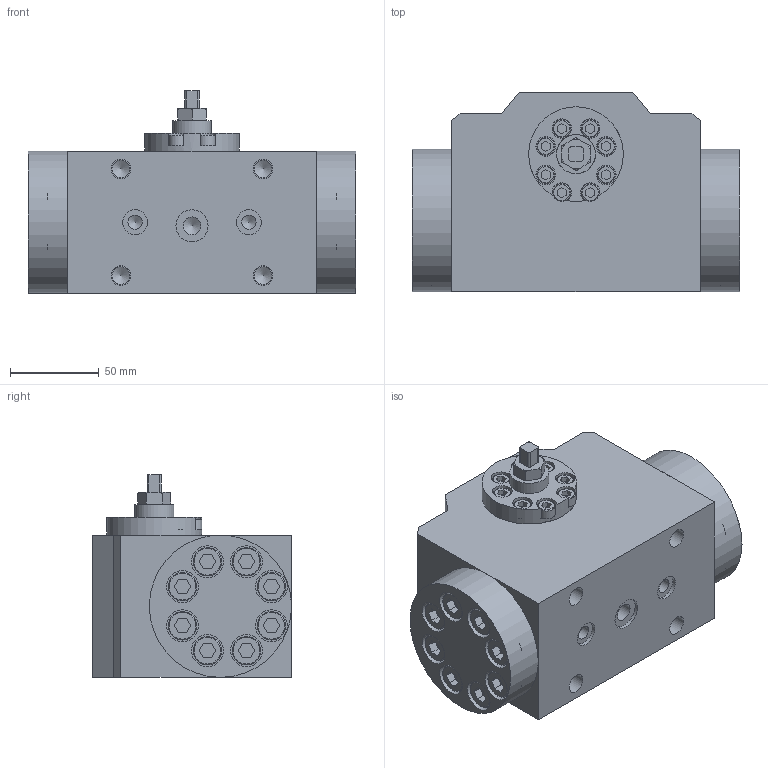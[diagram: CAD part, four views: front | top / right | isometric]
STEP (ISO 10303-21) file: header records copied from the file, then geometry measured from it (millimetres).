
FILE_DESCRIPTION(/* description */ (''),/* implementation_level */ '2;1');
FILE_NAME(/* name */ '7-1.prt.stp',/* time_stamp */ '2023-05-03T13:20:11+08:00',/* author */ (''),/* organization */ (''),/* preprocessor_version */ 'ST-DEVELOPER v16.7',/* originating_system */ 'SIEMENS PLM Software NX 12.0',/* authorisation */ '');
FILE_SCHEMA (('AUTOMOTIVE_DESIGN { 1 0 10303 214 3 1 1 1 }'));
Length unit declared in the file: millimetre
Products named in the file (1): 7-1
Bounding box: 184 x 112 x 114 mm (x, y, z)
Volume: 1387825.6 mm3; surface area: 194921.1 mm2
Topology: 31 solids, 31 shells, 683 faces, 1686 edges, 1116 vertices
Faces by surface type: plane 401, cylinder 191, cone 55, torus 36
Full cylindrical faces by diameter (mm): 5 x8, 6 x8, 7 x8, 8 x2, 8.5 x16, 10 x29, 11 x24, 14 x2, 16 x16, 18 x17, 22 x2, 53.244 x1, 80 x2
Entity records: 18424 total; most frequent: CARTESIAN_POINT 3175, DIRECTION 3152, ORIENTED_EDGE 2624, EDGE_CURVE 1312, AXIS2_PLACEMENT_3D 1180, EDGE_LOOP 1070, VERTEX_POINT 1011, LINE 792
